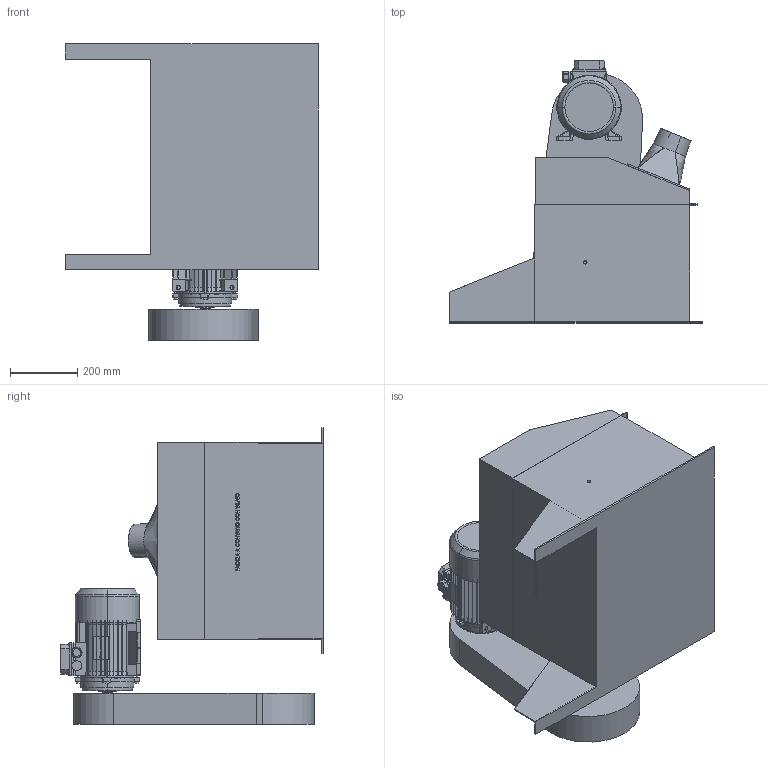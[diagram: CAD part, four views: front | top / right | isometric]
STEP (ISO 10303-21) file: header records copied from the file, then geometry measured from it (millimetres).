
FILE_DESCRIPTION (( 'STEP AP203' ), '1' );
FILE_NAME ('29625.step', '2019-03-14T14:30:47', ( 'PC' ), ( 'Hewlett-Packard Company' ), 'SwSTEP 2.0', 'SolidWorks 2016', '' );
FILE_SCHEMA (( 'CONFIG_CONTROL_DESIGN' ));
Length unit declared in the file: millimetre
Products named in the file (1): 29625
Bounding box: 750 x 781.02 x 882 mm (x, y, z)
Volume: 152531607.6 mm3; surface area: 3775381.7 mm2
Topology: 9 solids, 10 shells, 983 faces, 2544 edges, 1638 vertices
Faces by surface type: plane 661, cylinder 121, cone 109, bspline 86, torus 6
Entity records: 40711 total; most frequent: CARTESIAN_POINT 17276, ORIENTED_EDGE 5080, DIRECTION 4412, EDGE_CURVE 2540, VECTOR 1696, LINE 1696, VERTEX_POINT 1638, AXIS2_PLACEMENT_3D 1358
